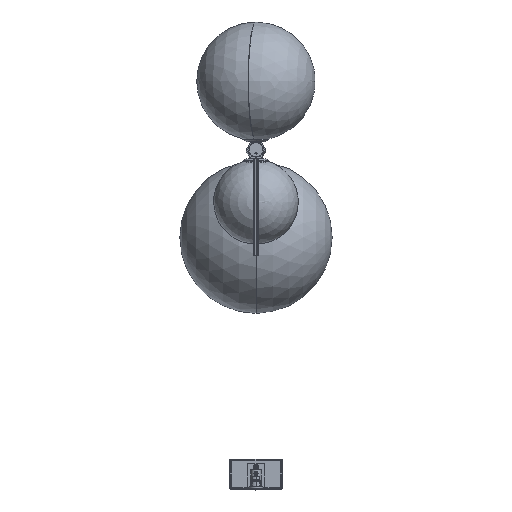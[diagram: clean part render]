
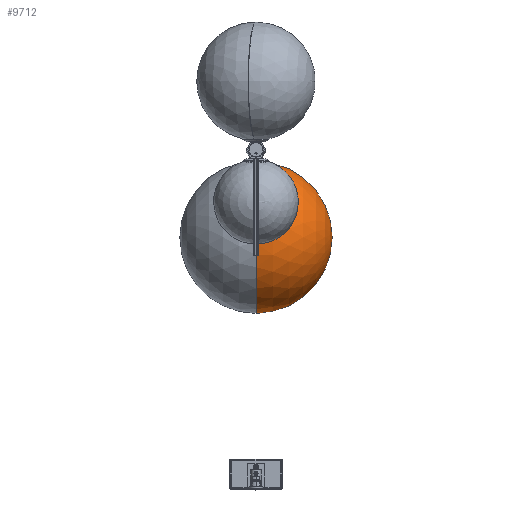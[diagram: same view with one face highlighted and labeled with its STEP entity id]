
A CAD part, top view. The second image highlights one B-rep face of the part: STEP entity #9712.
In plain terms, the highlighted spherical face has radius 90 mm.
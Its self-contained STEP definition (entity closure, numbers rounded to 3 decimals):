
#1456 = CARTESIAN_POINT ( 'NONE',  ( 0., -90., 0. ) ) ;
#3261 = AXIS2_PLACEMENT_3D ( 'NONE', #52024, #13214, #51713 ) ;
#3413 = DIRECTION ( 'NONE',  ( 0., 1., 0. ) ) ;
#9560 = ORIENTED_EDGE ( 'NONE', *, *, #25870, .F. ) ;
#9712 = ADVANCED_FACE ( 'NONE', ( #45964 ), #27013, .T. ) ;
#12314 = CARTESIAN_POINT ( 'NONE',  ( 0., 89.038, 0. ) ) ;
#13214 = DIRECTION ( 'NONE',  ( 0., 0., 1. ) ) ;
#14697 = CIRCLE ( 'NONE', #40348, 13.123 ) ;
#15684 = VERTEX_POINT ( 'NONE', #24107 ) ;
#17223 = VERTEX_POINT ( 'NONE', #33901 ) ;
#17395 = EDGE_LOOP ( 'NONE', ( #59106, #23705, #33590, #9560 ) ) ;
#17726 = AXIS2_PLACEMENT_3D ( 'NONE', #21248, #45662, #50776 ) ;
#19068 = CARTESIAN_POINT ( 'NONE',  ( 0., 89.038, 0. ) ) ;
#21248 = CARTESIAN_POINT ( 'NONE',  ( 0., 0., 0. ) ) ;
#23705 = ORIENTED_EDGE ( 'NONE', *, *, #32232, .T. ) ;
#24107 = CARTESIAN_POINT ( 'NONE',  ( -13.123, 89.038, 0. ) ) ;
#24819 = EDGE_CURVE ( 'NONE', #56985, #17223, #47140, .T. ) ;
#25186 = CARTESIAN_POINT ( 'NONE',  ( 0., 0., 0. ) ) ;
#25870 = EDGE_CURVE ( 'NONE', #17223, #35150, #50281, .T. ) ;
#26101 = DIRECTION ( 'NONE',  ( 0., 1., 0. ) ) ;
#27013 = SPHERICAL_SURFACE ( 'NONE', #17726, 90. ) ;
#32232 = EDGE_CURVE ( 'NONE', #56985, #15684, #61764, .T. ) ;
#33590 = ORIENTED_EDGE ( 'NONE', *, *, #46462, .F. ) ;
#33901 = CARTESIAN_POINT ( 'NONE',  ( 13.123, 89.038, 0. ) ) ;
#35150 = VERTEX_POINT ( 'NONE', #47109 ) ;
#35762 = DIRECTION ( 'NONE',  ( 0., 0., -1. ) ) ;
#40348 = AXIS2_PLACEMENT_3D ( 'NONE', #12314, #26101, #60746 ) ;
#42527 = DIRECTION ( 'NONE',  ( 0., 0., 1. ) ) ;
#45662 = DIRECTION ( 'NONE',  ( 0., 0., 1. ) ) ;
#45964 = FACE_OUTER_BOUND ( 'NONE', #17395, .T. ) ;
#46462 = EDGE_CURVE ( 'NONE', #35150, #15684, #14697, .T. ) ;
#47109 = CARTESIAN_POINT ( 'NONE',  ( 0., 89.038, -13.123 ) ) ;
#47140 = CIRCLE ( 'NONE', #3261, 90. ) ;
#50281 = CIRCLE ( 'NONE', #52339, 13.123 ) ;
#50526 = AXIS2_PLACEMENT_3D ( 'NONE', #25186, #35762, #54701 ) ;
#50776 = DIRECTION ( 'NONE',  ( -1., 0., 0. ) ) ;
#51713 = DIRECTION ( 'NONE',  ( 1., 0., 0. ) ) ;
#52024 = CARTESIAN_POINT ( 'NONE',  ( 0., 0., 0. ) ) ;
#52339 = AXIS2_PLACEMENT_3D ( 'NONE', #19068, #3413, #42527 ) ;
#54701 = DIRECTION ( 'NONE',  ( -1., 0., 0. ) ) ;
#56985 = VERTEX_POINT ( 'NONE', #1456 ) ;
#59106 = ORIENTED_EDGE ( 'NONE', *, *, #24819, .F. ) ;
#60746 = DIRECTION ( 'NONE',  ( 0., 0., 1. ) ) ;
#61764 = CIRCLE ( 'NONE', #50526, 90. ) ;
